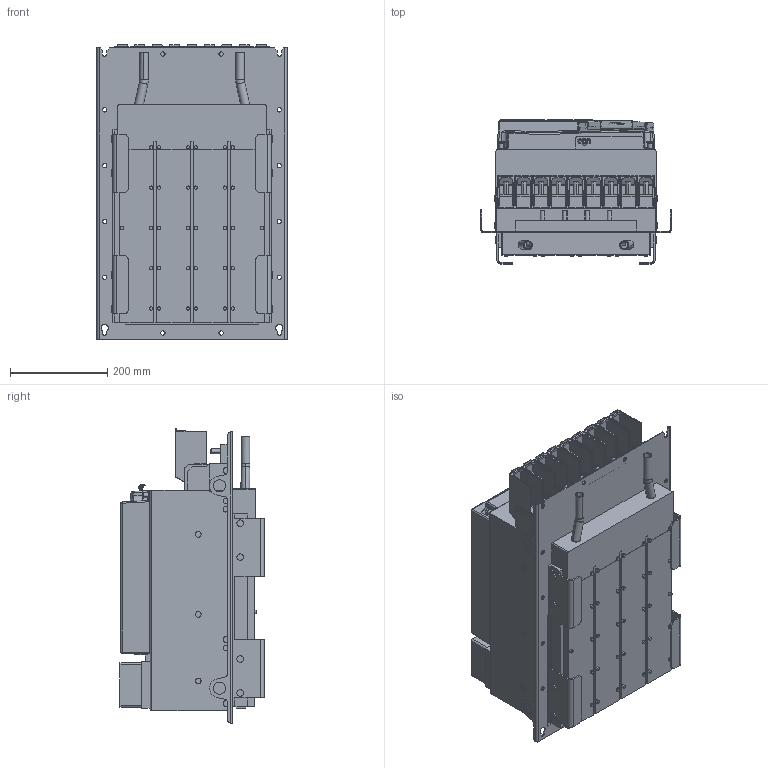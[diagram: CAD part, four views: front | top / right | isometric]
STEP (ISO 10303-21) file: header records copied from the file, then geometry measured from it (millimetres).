
FILE_DESCRIPTION (( 'STEP AP214' ), '1' );
FILE_NAME ('F6-7 TK5-P151.STEP', '2023-11-20T10:12:32', ( '' ), ( '' ), 'SwSTEP 2.0', 'SolidWorks 2022', '' );
FILE_SCHEMA (( 'AUTOMOTIVE_DESIGN' ));
Length unit declared in the file: millimetre
Products named in the file (13): Kundenmodell^10051076_000_Kundenmodell mit Geberbuchsen; F6-7 TK5-P151; 10043622_000_70F6 Klemme (Kundenmodell); Kundenmodell mit Zubehör^10078335_000; Kundenmodell^10059764_000; 10061502_000_Deckel (Kundenmodell); 10059764_000_Blindabdeckung (Kundenmodell); Kundenmodell^10045475_000_Gehäusebaugruppe ohne Lüfterkarte; 10051076_000_Kundenmodell; 10078335_000_Leistungsteil + BW F6-7 TW5 (Kundenmodell); Kundenmodell^10043622_000; 10045475_000_Gehäusebaugruppe F6-7 (Kundenmodell); Kundenmodell^10061502_000
Assembly tree (12 placements, depth 4):
  F6-7 TK5-P151
    10078335_000_Leistungsteil + BW F6-7 TW5 (Kundenmodell)
      10043622_000_70F6 Klemme (Kundenmodell)
        Kundenmodell^10043622_000
      Kundenmodell mit Zubehör^10078335_000
    10045475_000_Gehäusebaugruppe F6-7 (Kundenmodell)
      10061502_000_Deckel (Kundenmodell)
        Kundenmodell^10061502_000
      Kundenmodell^10045475_000_Gehäusebaugruppe ohne Lüfterkarte
    10051076_000_Kundenmodell
      10059764_000_Blindabdeckung (Kundenmodell)
        Kundenmodell^10059764_000
      Kundenmodell^10051076_000_Kundenmodell mit Geberbuchsen
Bounding box: 392 x 296.9 x 606.26 mm (x, y, z)
Volume: 41492968.7 mm3; surface area: 2183215.6 mm2
Topology: 11 solids, 12 shells, 3299 faces, 8479 edges, 5236 vertices
Faces by surface type: plane 1662, cylinder 1049, bspline 281, sphere 172, torus 73, cone 62
Entity records: 106571 total; most frequent: CARTESIAN_POINT 28268, ORIENTED_EDGE 16740, DIRECTION 15521, EDGE_CURVE 8370, VECTOR 5299, LINE 5299, VERTEX_POINT 5233, AXIS2_PLACEMENT_3D 5111
